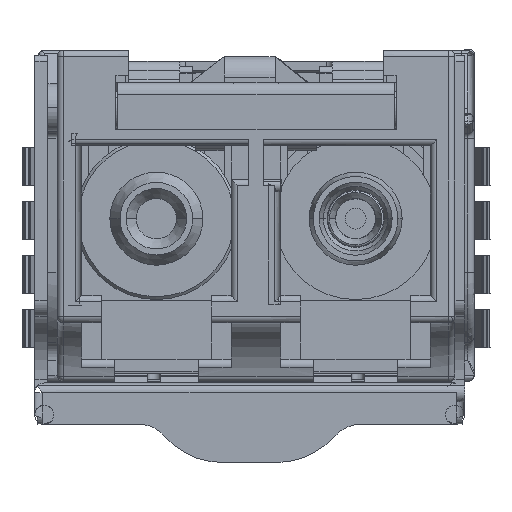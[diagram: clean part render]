
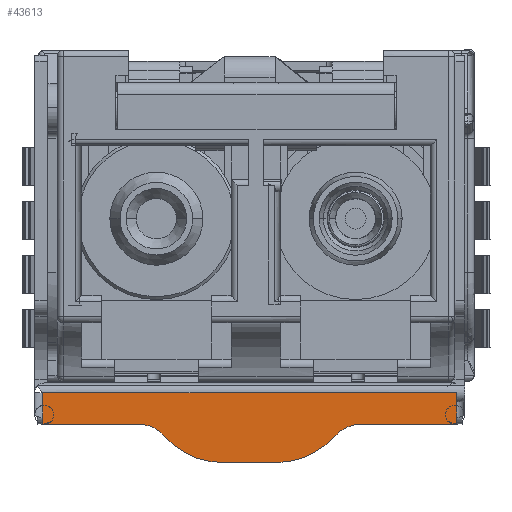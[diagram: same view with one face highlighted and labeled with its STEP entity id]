
A CAD part, left-side view. The second image highlights one B-rep face of the part: STEP entity #43613.
In plain terms, the highlighted planar face has unit normal (-1, 0, 0).
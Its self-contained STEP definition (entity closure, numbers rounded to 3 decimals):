
#30379=DIRECTION('',(0.,-1.,0.));
#30380=VECTOR('',#30379,13.);
#30381=CARTESIAN_POINT('',(2.091,1.391,-0.35));
#30382=LINE('',#30381,#30380);
#30390=CARTESIAN_POINT('',(2.091,1.341,-1.05));
#30391=DIRECTION('',(-1.,0.,0.));
#30392=DIRECTION('',(0.,0.167,-0.986));
#30393=AXIS2_PLACEMENT_3D('',#30390,#30391,#30392);
#30395=CARTESIAN_POINT('',(2.091,-11.559,-1.05));
#30396=DIRECTION('',(-1.,0.,0.));
#30397=DIRECTION('',(0.,0.,-1.));
#30398=AXIS2_PLACEMENT_3D('',#30395,#30396,#30397);
#30400=DIRECTION('',(0.,-1.,0.));
#30401=VECTOR('',#30400,2.991);
#30402=CARTESIAN_POINT('',(2.091,-8.568,-1.35));
#30403=LINE('',#30402,#30401);
#30404=CARTESIAN_POINT('',(2.091,-8.584,
-2.385));
#30405=DIRECTION('',(1.,0.,0.));
#30406=DIRECTION('',(0.,0.743,0.669));
#30407=AXIS2_PLACEMENT_3D('',#30404,#30405,#30406);
#30409=CARTESIAN_POINT('',(2.091,-5.93,
-0.05));
#30410=DIRECTION('',(-1.,0.,0.));
#30411=DIRECTION('',(0.,0.,-1.));
#30412=AXIS2_PLACEMENT_3D('',#30409,#30410,#30411);
#30414=DIRECTION('',(0.,-1.,0.));
#30415=VECTOR('',#30414,1.643);
#30416=CARTESIAN_POINT('',(2.091,-4.287,
-2.55));
#30417=LINE('',#30416,#30415);
#30418=CARTESIAN_POINT('',(2.091,-4.286,
-0.054));
#30419=DIRECTION('',(-1.,0.,0.));
#30420=DIRECTION('',(0.,0.754,-0.657));
#30421=AXIS2_PLACEMENT_3D('',#30418,#30419,#30420);
#30423=CARTESIAN_POINT('',(2.091,-1.647,
-2.355));
#30424=DIRECTION('',(1.,0.,0.));
#30425=DIRECTION('',(0.,-0.002,1.));
#30426=AXIS2_PLACEMENT_3D('',#30423,#30424,#30425);
#30428=DIRECTION('',(0.,-1.,0.));
#30429=VECTOR('',#30428,2.991);
#30430=CARTESIAN_POINT('',(2.091,1.341,-1.35));
#30431=LINE('',#30430,#30429);
#30756=DIRECTION('',(0.,0.,1.));
#30757=VECTOR('',#30756,0.996);
#30758=CARTESIAN_POINT('',(2.091,1.391,
-1.346));
#30759=LINE('',#30758,#30757);
#30760=CARTESIAN_POINT('',(2.091,1.391,
-1.346));
#30807=CARTESIAN_POINT('',(2.091,-11.609,
-1.346));
#30809=DIRECTION('',(0.,0.,-1.));
#30810=VECTOR('',#30809,0.996);
#30811=CARTESIAN_POINT('',(2.091,-11.609,-0.35));
#30812=LINE('',#30811,#30810);
#38005=CARTESIAN_POINT('',(2.091,-11.609,-0.35));
#38007=VERTEX_POINT('',#38005);
#38008=VERTEX_POINT('',#30807);
#38035=CARTESIAN_POINT('',(2.091,1.391,-0.35));
#38037=VERTEX_POINT('',#38035);
#38040=VERTEX_POINT('',#30760);
#39160=CARTESIAN_POINT('',(2.091,1.341,-1.35));
#39161=CARTESIAN_POINT('',(2.091,-1.649,-1.35));
#39162=VERTEX_POINT('',#39160);
#39163=VERTEX_POINT('',#39161);
#39304=CARTESIAN_POINT('',(2.091,-8.568,-1.35));
#39305=CARTESIAN_POINT('',(2.091,-11.559,-1.35));
#39306=VERTEX_POINT('',#39304);
#39307=VERTEX_POINT('',#39305);
#39320=CARTESIAN_POINT('',(2.091,-4.287,
-2.55));
#39321=VERTEX_POINT('',#39320);
#39322=CARTESIAN_POINT('',(2.091,-2.403,
-1.693));
#39323=VERTEX_POINT('',#39322);
#39452=CARTESIAN_POINT('',(2.091,-5.93,
-2.55));
#39453=VERTEX_POINT('',#39452);
#39561=CARTESIAN_POINT('',(2.091,-7.814,
-1.693));
#39562=VERTEX_POINT('',#39561);
#43583=CARTESIAN_POINT('',(2.091,-11.609,-1.35));
#43584=DIRECTION('',(-1.,0.,0.));
#43585=DIRECTION('',(0.,0.,1.));
#43586=AXIS2_PLACEMENT_3D('',#43583,#43584,#43585);
#43587=PLANE('',#43586);
#43589=ORIENTED_EDGE('',*,*,#43588,.F.);
#43591=ORIENTED_EDGE('',*,*,#43590,.T.);
#43592=ORIENTED_EDGE('',*,*,#43576,.T.);
#43594=ORIENTED_EDGE('',*,*,#43593,.T.);
#43596=ORIENTED_EDGE('',*,*,#43595,.F.);
#43598=ORIENTED_EDGE('',*,*,#43597,.F.);
#43600=ORIENTED_EDGE('',*,*,#43599,.F.);
#43602=ORIENTED_EDGE('',*,*,#43601,.F.);
#43604=ORIENTED_EDGE('',*,*,#43603,.F.);
#43606=ORIENTED_EDGE('',*,*,#43605,.F.);
#43608=ORIENTED_EDGE('',*,*,#43607,.F.);
#43610=ORIENTED_EDGE('',*,*,#43609,.F.);
#43611=EDGE_LOOP('',(#43589,#43591,#43592,#43594,#43596,#43598,#43600,#43602,
#43604,#43606,#43608,#43610));
#43612=FACE_OUTER_BOUND('',#43611,.F.);
#30394=CIRCLE('',#30393,0.3);
#30399=CIRCLE('',#30398,0.3);
#30408=CIRCLE('',#30407,1.035);
#30413=CIRCLE('',#30412,2.5);
#30422=CIRCLE('',#30421,2.496);
#30427=CIRCLE('',#30426,1.005);
#43576=EDGE_CURVE('',#38037,#38007,#30382,.T.);
#43588=EDGE_CURVE('',#38040,#39162,#30394,.T.);
#43590=EDGE_CURVE('',#38040,#38037,#30759,.T.);
#43593=EDGE_CURVE('',#38007,#38008,#30812,.T.);
#43595=EDGE_CURVE('',#39307,#38008,#30399,.T.);
#43597=EDGE_CURVE('',#39306,#39307,#30403,.T.);
#43599=EDGE_CURVE('',#39562,#39306,#30408,.T.);
#43601=EDGE_CURVE('',#39453,#39562,#30413,.T.);
#43603=EDGE_CURVE('',#39321,#39453,#30417,.T.);
#43605=EDGE_CURVE('',#39323,#39321,#30422,.T.);
#43607=EDGE_CURVE('',#39163,#39323,#30427,.T.);
#43609=EDGE_CURVE('',#39162,#39163,#30431,.T.);
#43613=ADVANCED_FACE('',(#43612),#43587,.T.);
